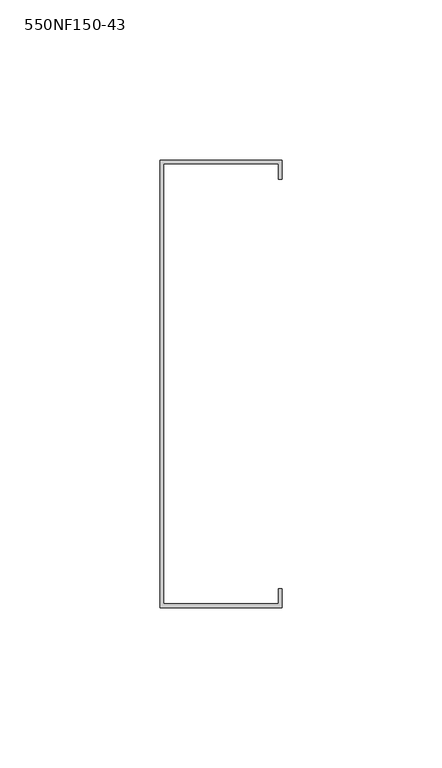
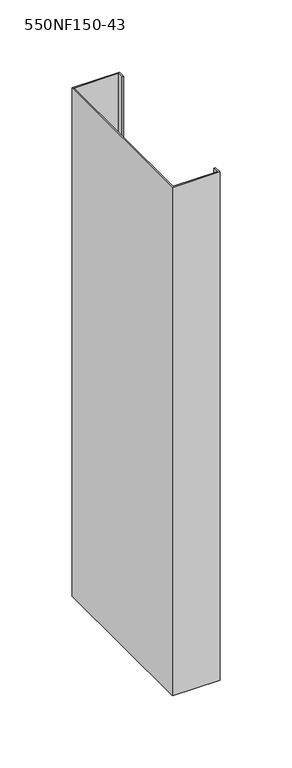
"""IFC4 building model written with IfcOpenShell, lengths in millimetres: column geometry, BIMSF-SSMA-S-Column : 550NF150-43."""

import ifcopenshell
import ifcopenshell.guid

model = None  # the IFC model being written
_history = None  # IfcOwnerHistory: only IFC2X3 demands one
_inside = {}  # id of a spatial element -> (the spatial element, [elements in it])
_under = {}  # id of a project, library or spatial element -> (it, [spatial elements below it])
_declared = {}  # id of a project -> (the project, [libraries it declares])
_typed = {}  # id of a type object -> (the type object, [elements of that type])
_made_of = {}  # id of a material, layer set ... -> (it, [elements and type objects made of it])


def new_model(schema):
    """Start an empty IFC model of exactly this schema.

    Asked for "IFC4X3", IfcOpenShell would pick the latest addendum, in which some entities
    have other attributes; the version numbers below select the first issue.
    IFC2X3 requires an IfcOwnerHistory on every rooted entity: one is made here for all.
    """
    global model, _history
    if schema == "IFC4X3":
        model = ifcopenshell.file(schema_version=(4, 3, 0, 0))
    else:
        model = ifcopenshell.file(schema=schema)
    _inside.clear()
    _under.clear()
    _declared.clear()
    _typed.clear()
    _made_of.clear()
    _history = None
    if model.schema == "IFC2X3":
        org = make("IfcOrganization", Name="unknown")
        user = make(
            "IfcPersonAndOrganization",
            ThePerson=make("IfcPerson", FamilyName="unknown"),
            TheOrganization=org,
        )
        app = make(
            "IfcApplication",
            ApplicationDeveloper=org,
            Version="unknown",
            ApplicationFullName="unknown",
            ApplicationIdentifier="unknown",
        )
        _history = make(
            "IfcOwnerHistory",
            OwningUser=user,
            OwningApplication=app,
            ChangeAction="ADDED",
            CreationDate=0,
        )
    return model


def make(cls, **values):
    """One entity of the class cls with the attributes given. An attribute that is None is left unset."""
    return model.create_entity(
        cls, **{name: value for name, value in values.items() if value is not None}
    )


def rooted(cls, **values):
    """An entity with a GlobalId (a new one), such as an element, a storey or a relation."""
    return make(cls, GlobalId=ifcopenshell.guid.new(), OwnerHistory=_history, **values)


def si_unit(unit_type, name, prefix=None):
    """IfcSIUnit, for example si_unit("LENGTHUNIT", "METRE", prefix="MILLI")."""
    return make("IfcSIUnit", UnitType=unit_type, Prefix=prefix, Name=name)


def assignment(units):
    """IfcUnitAssignment: the units of a project."""
    return None if units is None else make("IfcUnitAssignment", Units=units)


def point(xyz):
    """IfcCartesianPoint."""
    return None if xyz is None else make("IfcCartesianPoint", Coordinates=xyz)


def direction(xyz):
    """IfcDirection."""
    return None if xyz is None else make("IfcDirection", DirectionRatios=xyz)


def frame(location, z_axis=None, x_axis=None):
    """IfcAxis2Placement3D, a coordinate frame: its origin and axes. An axis left out is left unset."""
    return make(
        "IfcAxis2Placement3D",
        Location=point(location),
        Axis=direction(z_axis),
        RefDirection=direction(x_axis),
    )


def origin():
    """The frame at (0, 0, 0) with its axes left unset."""
    return frame((0.0, 0.0, 0.0))


def place(relative_to, where):
    """IfcLocalPlacement: puts the frame where relative to a parent placement (None: the world)."""
    return make(
        "IfcLocalPlacement", PlacementRelTo=relative_to, RelativePlacement=where
    )


def context(
    kind, dimensions, precision=None, world=None, true_north=None, identifier=None
):
    """IfcGeometricRepresentationContext, for example the 3D "Model" context."""
    return make(
        "IfcGeometricRepresentationContext",
        ContextIdentifier=identifier,
        ContextType=kind,
        CoordinateSpaceDimension=dimensions,
        Precision=precision,
        WorldCoordinateSystem=world,
        TrueNorth=true_north,
    )


def project(units=None, contexts=None):
    """IfcProject with its units and contexts."""
    return rooted(
        "IfcProject",
        Name="project",
        RepresentationContexts=contexts,
        UnitsInContext=assignment(units),
    )


def spatial(cls, under=None, at=None, **own):
    """A site, building, storey or space (cls), placed at a placement, below another one or the project."""
    s = rooted(cls, ObjectPlacement=at, **own)
    if under is not None:
        _under.setdefault(under.id(), (under, []))[1].append(s)
    return s


def polyline(points):
    """IfcPolyline through the points."""
    return make("IfcPolyline", Points=[point(p) for p in points])


def outline(outer, holes=None, kind="AREA"):
    """IfcArbitraryClosedProfileDef: a profile drawn as a closed curve; with holes, ...WithVoids."""
    if holes is None:
        return make("IfcArbitraryClosedProfileDef", ProfileType=kind, OuterCurve=outer)
    return make(
        "IfcArbitraryProfileDefWithVoids",
        ProfileType=kind,
        OuterCurve=outer,
        InnerCurves=holes,
    )


def extrude(swept, where, along, depth):
    """IfcExtrudedAreaSolid: the profile swept, set in the frame where, extruded along a direction by depth."""
    return make(
        "IfcExtrudedAreaSolid",
        SweptArea=swept,
        Position=where,
        ExtrudedDirection=direction(along),
        Depth=depth,
    )


def shape(context_of_items, identifier, shape_type, items):
    """IfcShapeRepresentation: the items that make up one representation, for example the "Body"."""
    return make(
        "IfcShapeRepresentation",
        ContextOfItems=context_of_items,
        RepresentationIdentifier=identifier,
        RepresentationType=shape_type,
        Items=items,
    )


def source(mapping_origin, context_of_items, identifier, shape_type, items):
    """IfcRepresentationMap: a shape defined once, which mapped items show again and again."""
    return make(
        "IfcRepresentationMap",
        MappingOrigin=mapping_origin,
        MappedRepresentation=shape(context_of_items, identifier, shape_type, items),
    )


def transform(
    local_origin,
    x_axis=None,
    y_axis=None,
    z_axis=None,
    scale=None,
    scale2=None,
    scale3=None,
    uniform=True,
):
    """IfcCartesianTransformationOperator3D, or its non-uniform kind. x_axis, y_axis, z_axis: its Axis1, 2, 3."""
    if uniform:
        return make(
            "IfcCartesianTransformationOperator3D",
            Axis1=direction(x_axis),
            Axis2=direction(y_axis),
            LocalOrigin=point(local_origin),
            Scale=scale,
            Axis3=direction(z_axis),
        )
    return make(
        "IfcCartesianTransformationOperator3DnonUniform",
        Axis1=direction(x_axis),
        Axis2=direction(y_axis),
        LocalOrigin=point(local_origin),
        Scale=scale,
        Axis3=direction(z_axis),
        Scale2=scale2,
        Scale3=scale3,
    )


def mapped(mapping_source, mapping_target):
    """IfcMappedItem: shows the shape of a source again, moved by a transform."""
    return make(
        "IfcMappedItem", MappingSource=mapping_source, MappingTarget=mapping_target
    )


def made_of(thing, what):
    """Note that an element or type object is made of a material, layer set ...; save() writes the relation."""
    if what is not None:
        _made_of.setdefault(what.id(), (what, []))[1].append(thing)
    return thing


def element(
    cls,
    number,
    at=None,
    inside=None,
    cuts=None,
    type_object=None,
    material=None,
    context=None,
    identifier="Body",
    shape_type=None,
    held_by="IfcProductDefinitionShape",
    body=None,
    shapes=None,
    **own,
):
    """One element of the class cls, such as IfcWall. Its Tag is "e" and its number.

    at: its placement. inside: the storey or other place that contains it. cuts: it is an
    opening in that element (IfcRelVoidsElement). A single representation is given by context,
    identifier, shape_type and body (its items); several are given by shapes. held_by: the class
    of the entity that holds the representations. save() writes the other relations.
    """
    e = rooted(cls, Tag="e%d" % number, ObjectPlacement=at, **own)
    if body is not None:
        shapes = [shape(context, identifier, shape_type, body)]
    if shapes is not None:
        e.Representation = make(held_by, Representations=shapes)
    if inside is not None:
        _inside.setdefault(inside.id(), (inside, []))[1].append(e)
    if cuts is not None:
        rooted(
            "IfcRelVoidsElement", RelatingBuildingElement=cuts, RelatedOpeningElement=e
        )
    if type_object is not None:
        _typed.setdefault(type_object.id(), (type_object, []))[1].append(e)
    return made_of(e, material)


def aggregate(whole, parts):
    """IfcRelAggregates: a whole, such as a stair, and the parts it consists of."""
    return rooted("IfcRelAggregates", RelatingObject=whole, RelatedObjects=parts)


def save(model, path):
    """Write the relations noted so far, then the file.

    IfcRelAggregates (storeys below a building ...), IfcRelContainedInSpatialStructure (elements
    in a storey), IfcRelDefinesByType, IfcRelAssociatesMaterial and IfcRelDeclares: one each for
    every whole, place, type object, material and project.
    """
    for whole, parts in _under.values():
        aggregate(whole, parts)
    for where, things in _inside.values():
        rooted(
            "IfcRelContainedInSpatialStructure",
            RelatedElements=things,
            RelatingStructure=where,
        )
    for kind, things in _typed.values():
        rooted("IfcRelDefinesByType", RelatedObjects=things, RelatingType=kind)
    for what, things in _made_of.values():
        rooted("IfcRelAssociatesMaterial", RelatedObjects=things, RelatingMaterial=what)
    for by, libraries in _declared.values():
        rooted("IfcRelDeclares", RelatingContext=by, RelatedDefinitions=libraries)
    model.write(path)


def column_550nf150_43_0c3e40f0(model_context):
    return source(origin(), model_context, "Body", "SweptSolid", [
        extrude(outline(polyline([(-11.9977877, -80.5871249), (-11.9977877, 59.1128751), (26.1022123, 59.1128751), (26.1022123, 53.1879908), (24.952528, 53.1879908), (24.952528, 57.9631908), (-10.8481035, 57.9631908), (-10.8481035, -79.4374407), (24.952528, -79.4374407), (24.952528, -74.6622407), (26.1022123, -74.6622407), (26.1022123, -80.5871249), (-11.9977877, -80.5871249)])), frame((0.0, 0.0, 5525.3929688), z_axis=(0.0, 0.0, 1.0), x_axis=(1.0, 0.0, 0.0)), (0.0, 0.0, 1.0), 430.7416667),
    ])


if __name__ == "__main__":
    model = new_model("IFC4")
    model_context = context("Model", 3, world=origin())
    ifc_project = project(units=[si_unit("LENGTHUNIT", "METRE", prefix="MILLI")], contexts=[model_context])
    site = spatial("IfcSite", under=ifc_project)
    building = spatial("IfcBuilding", under=site)
    placement = place(None, origin())
    column_550nf150_43_shape = column_550nf150_43_0c3e40f0(model_context)
    element("IfcColumn", 1, ObjectType="BIMSF-SSMA-S-Column : 550NF150-43", at=placement, inside=building, context=model_context, shape_type="MappedRepresentation", body=[
        mapped(column_550nf150_43_shape, transform((0.0, 0.0, 0.0), x_axis=(1.0, 0.0, 0.0), y_axis=(0.0, 1.0, 0.0), z_axis=(0.0, 0.0, 1.0))),
    ])
    save(model, "model.ifc")
